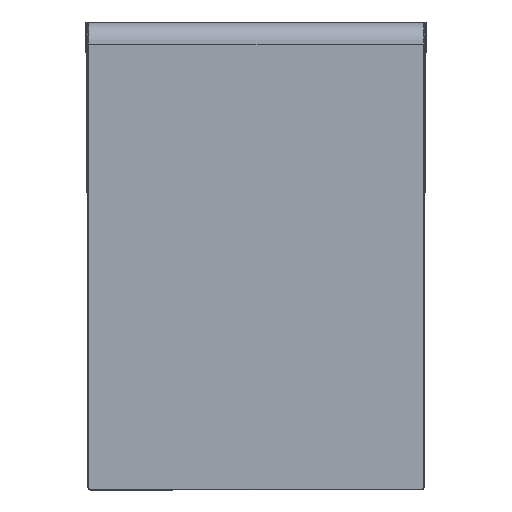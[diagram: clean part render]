
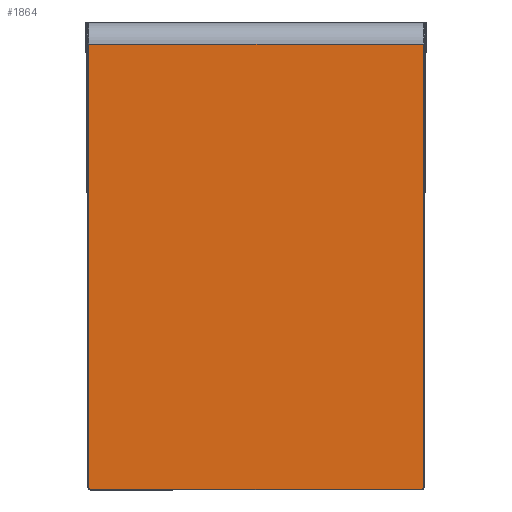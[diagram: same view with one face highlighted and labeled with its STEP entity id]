
A CAD part, top view. The second image highlights one B-rep face of the part: STEP entity #1864.
In plain terms, the highlighted planar face has unit normal (0, 0, 1).
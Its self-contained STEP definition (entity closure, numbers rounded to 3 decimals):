
#1663=CARTESIAN_POINT('',(6.,517.001,13.));
#1664=VERTEX_POINT('',#1663);
#1694=CARTESIAN_POINT('',(6.,-4.,13.));
#1695=VERTEX_POINT('',#1694);
#1704=CARTESIAN_POINT('',(6.,517.001,13.0));
#1705=DIRECTION('',(0.0,-1.0,0.0));
#1706=VECTOR('',#1705,521.001);
#1707=LINE('',#1704,#1706);
#1708=EDGE_CURVE('',#1664,#1695,#1707,.T.);
#1718=CARTESIAN_POINT('',(4.,-6.,13.));
#1719=VERTEX_POINT('',#1718);
#1728=CARTESIAN_POINT('',(4.,-4.,13.));
#1729=DIRECTION('',(0.,0.,-1.0));
#1730=DIRECTION('',(0.707,-0.707,0.));
#1731=AXIS2_PLACEMENT_3D('',#1728,#1729,#1730);
#1732=CIRCLE('',#1731,2.);
#1733=EDGE_CURVE('',#1695,#1719,#1732,.T.);
#1743=CARTESIAN_POINT('',(-385.,-6.,13.));
#1744=VERTEX_POINT('',#1743);
#1753=CARTESIAN_POINT('',(4.,-6.,13.));
#1754=DIRECTION('',(-1.0,0.0,0.0));
#1755=VECTOR('',#1754,389.);
#1756=LINE('',#1753,#1755);
#1757=EDGE_CURVE('',#1719,#1744,#1756,.T.);
#1767=CARTESIAN_POINT('',(-387.,-4.,13.));
#1768=VERTEX_POINT('',#1767);
#1777=CARTESIAN_POINT('',(-385.,-4.,13.));
#1778=DIRECTION('',(0.,0.,-1.0));
#1779=DIRECTION('',(-0.707,-0.707,0.));
#1780=AXIS2_PLACEMENT_3D('',#1777,#1778,#1779);
#1781=CIRCLE('',#1780,2.);
#1782=EDGE_CURVE('',#1744,#1768,#1781,.T.);
#1792=CARTESIAN_POINT('',(-387.0,517.001,13.));
#1793=VERTEX_POINT('',#1792);
#1802=CARTESIAN_POINT('',(-387.,-4.,13.));
#1803=DIRECTION('',(0.0,1.0,0.0));
#1804=VECTOR('',#1803,521.001);
#1805=LINE('',#1802,#1804);
#1806=EDGE_CURVE('',#1768,#1793,#1805,.T.);
#1846=CARTESIAN_POINT('',(-190.5,511.43,13.));
#1847=DIRECTION('',(0.0,0.0,1.0));
#1848=DIRECTION('',(0.0,1.0,0.0));
#1849=AXIS2_PLACEMENT_3D('',#1846,#1847,#1848);
#1850=PLANE('',#1849);
#1851=ORIENTED_EDGE('',*,*,#1806,.F.);
#1852=ORIENTED_EDGE('',*,*,#1782,.F.);
#1853=ORIENTED_EDGE('',*,*,#1757,.F.);
#1854=ORIENTED_EDGE('',*,*,#1733,.F.);
#1855=ORIENTED_EDGE('',*,*,#1708,.F.);
#1856=CARTESIAN_POINT('',(6.,517.001,13.));
#1857=DIRECTION('',(-1.0,0.0,0.0));
#1858=VECTOR('',#1857,393.);
#1859=LINE('',#1856,#1858);
#1860=EDGE_CURVE('',#1664,#1793,#1859,.T.);
#1861=ORIENTED_EDGE('',*,*,#1860,.T.);
#1862=EDGE_LOOP('',(#1851,#1852,#1853,#1854,#1855,#1861));
#1863=FACE_OUTER_BOUND('',#1862,.T.);
#1864=ADVANCED_FACE('',(#1863),#1850,.T.);
